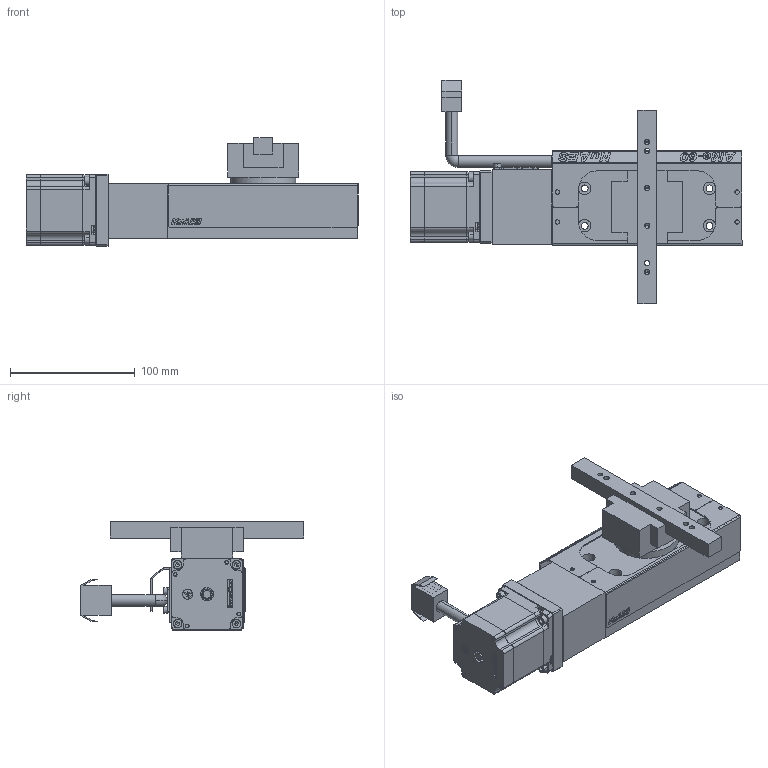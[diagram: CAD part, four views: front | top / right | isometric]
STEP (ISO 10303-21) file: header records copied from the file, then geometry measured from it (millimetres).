
FILE_DESCRIPTION (( 'STEP AP214' ), '1' );
FILE_NAME ('AMe6005p-15L-201-B.STEP', '2022-11-11T07:01:30', ( '' ), ( '' ), 'SwSTEP 2.0', 'SolidWorks 2018', '' );
FILE_SCHEMA (( 'AUTOMOTIVE_DESIGN' ));
Length unit declared in the file: millimetre
Products named in the file (11): SC03B006_SCM435(化鎳); AMe6005p-15-10A_蕼偞; AMe60-15坒翐; AMe6005p-15-06B; AMe6005p-15L-201-B; SC04B010_SCM435(化鎳); 57CM13; KK60-F4; NC-JFM-SG-04_蕼偞; AMe6005p-15-05E_蕼偞; SC04B014_SCM435(化鎳)
Assembly tree (17 placements, depth 2):
  AMe6005p-15L-201-B
    AMe6005p-15-06B
    AMe6005p-15-05E_蕼偞
    57CM13
    KK60-F4
    SC04B010_SCM435(化鎳)  x4
    SC04B014_SCM435(化鎳)  x4
    AMe60-15坒翐
    AMe6005p-15-10A_蕼偞
    SC03B006_SCM435(化鎳)  x2
    NC-JFM-SG-04_蕼偞
Bounding box: 266 x 179.05 x 86.85 mm (x, y, z)
Volume: 672742.1 mm3; surface area: 169752.9 mm2
Topology: 16 solids, 33 shells, 2300 faces, 5989 edges, 3865 vertices
Faces by surface type: plane 1429, cylinder 437, bspline 236, torus 95, cone 87, sphere 16
Entity records: 93689 total; most frequent: CARTESIAN_POINT 26624, ORIENTED_EDGE 11114, DIRECTION 9143, EDGE_CURVE 5565, VERTEX_POINT 3634, VECTOR 3363, LINE 3363, AXIS2_PLACEMENT_3D 2890
